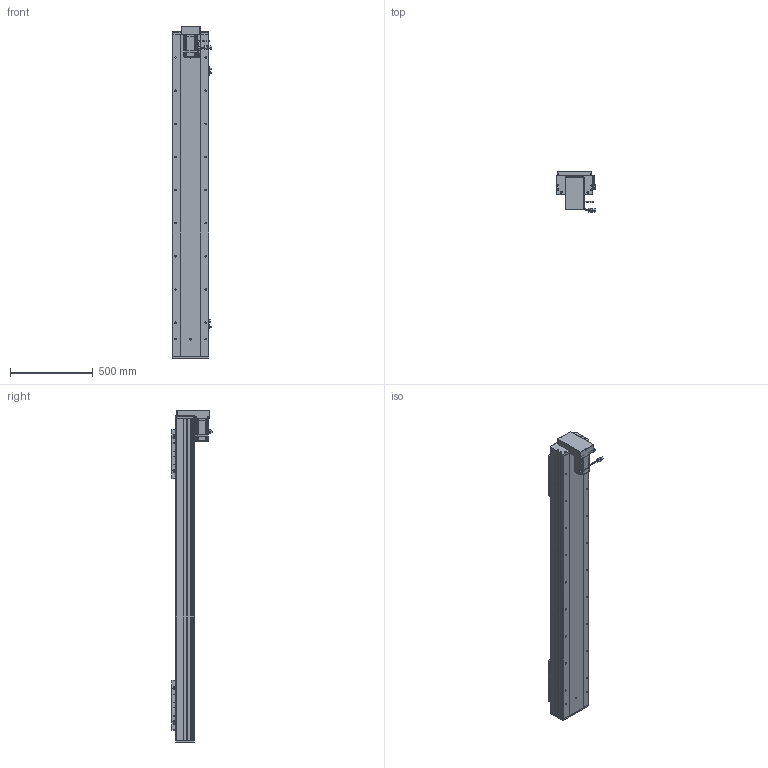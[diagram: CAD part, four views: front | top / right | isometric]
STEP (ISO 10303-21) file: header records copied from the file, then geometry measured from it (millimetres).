
FILE_DESCRIPTION (( 'STEP AP203' ), '1' );
FILE_NAME ('RY220F-L2525-800-BK-邧嶺.SLDASM_1500.step', '2022-08-06T08:08:14', ( '' ), ( '' ), 'SwSTEP 2.0', 'SolidWorks 2016', '' );
FILE_SCHEMA (( 'CONFIG_CONTROL_DESIGN' ));
Length unit declared in the file: millimetre
Products named in the file (15): 滅袉蝶18-24; RY220F蛌殏菁釱-800-邧嶺_1500; RY220F臏賑釱25-32佪裝; RY220狟殏萇儂假蚾啣; 怢湛750W_ECMA-CX0807ES; RY220F-詩湍揤踡輸; 侐源滅袉蝶; RY220F-672覜茼んえ; RY220F-L2525-800-BK-邧嶺.SLDASM_1500; RY220F-滅鳥奻裔; 覜茼ん672; RY220F-蛌殏奻裔啣-800_1500; RY220F-祥凄詩湍-蛌殏-800_1500; RY220狟殏萇儂欶; RY220F綴裔啣
Assembly tree (24 placements, depth 2):
  RY220F-L2525-800-BK-邧嶺.SLDASM_1500
    RY220F蛌殏菁釱-800-邧嶺_1500
    RY220F-蛌殏奻裔啣-800_1500  x2
    怢湛750W_ECMA-CX0807ES
    RY220F臏賑釱25-32佪裝  x2
    RY220F-滅鳥奻裔  x2
    滅袉蝶18-24  x3
    RY220F綴裔啣
    RY220F-祥凄詩湍-蛌殏-800_1500
    RY220F-詩湍揤踡輸  x2
    覜茼ん672  x3
    RY220F-672覜茼んえ  x2
    侐源滅袉蝶  x2
    RY220狟殏萇儂假蚾啣
    RY220狟殏萇儂欶
Bounding box: 237.27 x 247.24 x 2003 mm (x, y, z)
Volume: 17897076.5 mm3; surface area: 4687207.7 mm2
Topology: 25 solids, 25 shells, 2855 faces, 7746 edges, 4771 vertices
Faces by surface type: cylinder 1278, plane 1062, cone 444, bspline 45, sphere 16, torus 10
Entity records: 70977 total; most frequent: CARTESIAN_POINT 19037, ORIENTED_EDGE 10474, DIRECTION 10249, EDGE_CURVE 5237, AXIS2_PLACEMENT_3D 3650, VERTEX_POINT 3387, VECTOR 2949, LINE 2949
